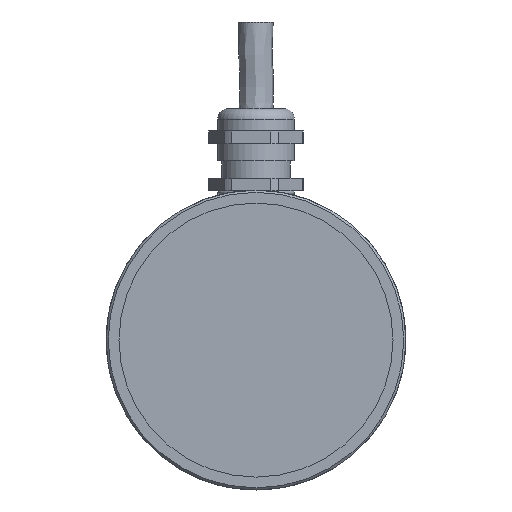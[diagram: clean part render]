
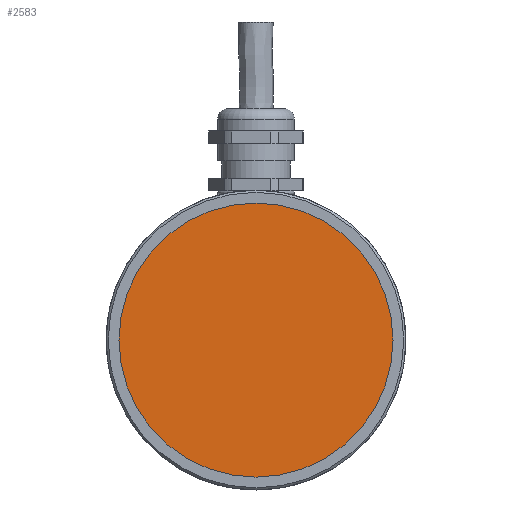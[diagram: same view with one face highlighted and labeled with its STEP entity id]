
A CAD part, left-side view. The second image highlights one B-rep face of the part: STEP entity #2583.
In plain terms, the highlighted planar face has unit normal (-1, 0, 0).
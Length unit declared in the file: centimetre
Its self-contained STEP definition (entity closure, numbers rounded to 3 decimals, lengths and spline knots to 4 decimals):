
#753=CIRCLE('',#2730,3.2);
#828=VERTEX_POINT('',#3366);
#1311=EDGE_CURVE('',#828,#828,#753,.T.);
#1636=ORIENTED_EDGE('',*,*,#1311,.T.);
#2252=EDGE_LOOP('',(#1636));
#2419=FACE_BOUND('',#2252,.T.);
#2583=ADVANCED_FACE('',(#2419),#8163,.T.);
#2730=AXIS2_PLACEMENT_3D('',#3365,#2924,#2925);
#2732=AXIS2_PLACEMENT_3D('',#3369,#2928,$);
#2924=DIRECTION('',(-1.,0.,0.));
#2925=DIRECTION('',(0.,0.,3.2));
#2928=DIRECTION('',(-1.,0.,0.));
#3365=CARTESIAN_POINT('',(0.1,0.,0.));
#3366=CARTESIAN_POINT('',(0.1,0.,3.2));
#3369=CARTESIAN_POINT('',(0.1,0.,0.));
#8163=PLANE('',#2732);
